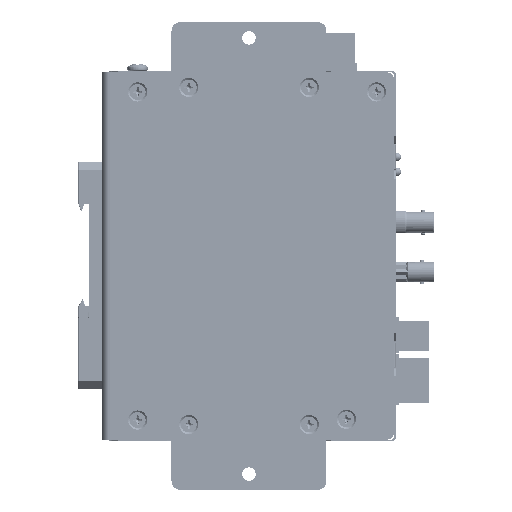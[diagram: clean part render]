
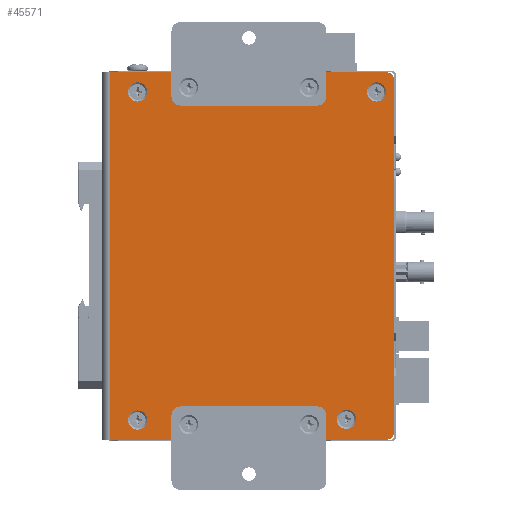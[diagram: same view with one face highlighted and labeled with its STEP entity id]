
A CAD part, left-side view. The second image highlights one B-rep face of the part: STEP entity #45571.
In plain terms, the highlighted planar face has unit normal (-1, 0, 0).
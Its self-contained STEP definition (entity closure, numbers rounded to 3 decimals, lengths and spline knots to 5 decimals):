
#2086=CIRCLE('',#51442,0.00324);
#2087=CIRCLE('',#51443,0.00324);
#2088=CIRCLE('',#51444,0.00324);
#2089=CIRCLE('',#51445,0.00324);
#2090=CIRCLE('',#51446,0.00324);
#2091=CIRCLE('',#51447,0.00324);
#2092=CIRCLE('',#51448,0.00324);
#2093=CIRCLE('',#51449,0.00324);
#2094=CIRCLE('',#51450,0.00254);
#2095=CIRCLE('',#51451,0.00254);
#3966=LINE('',#71765,#8369);
#3970=LINE('',#71774,#8373);
#3976=LINE('',#71788,#8379);
#3978=LINE('',#71810,#8381);
#8369=VECTOR('',#56300,1.);
#8373=VECTOR('',#56306,1.);
#8379=VECTOR('',#56314,1.);
#8381=VECTOR('',#56338,1.);
#13854=ORIENTED_EDGE('',*,*,#26093,.F.);
#13855=ORIENTED_EDGE('',*,*,#26094,.F.);
#13856=ORIENTED_EDGE('',*,*,#26095,.F.);
#13857=ORIENTED_EDGE('',*,*,#26096,.F.);
#13858=ORIENTED_EDGE('',*,*,#26097,.F.);
#13859=ORIENTED_EDGE('',*,*,#26098,.F.);
#13860=ORIENTED_EDGE('',*,*,#26099,.F.);
#13861=ORIENTED_EDGE('',*,*,#26100,.F.);
#13862=ORIENTED_EDGE('',*,*,#26091,.F.);
#13863=ORIENTED_EDGE('',*,*,#26101,.T.);
#13864=ORIENTED_EDGE('',*,*,#26081,.T.);
#13865=ORIENTED_EDGE('',*,*,#26102,.T.);
#13866=ORIENTED_EDGE('',*,*,#26085,.T.);
#13867=ORIENTED_EDGE('',*,*,#26103,.F.);
#26081=EDGE_CURVE('',#32369,#32370,#3966,.T.);
#26085=EDGE_CURVE('',#32373,#32374,#3970,.T.);
#26091=EDGE_CURVE('',#32379,#32380,#3976,.T.);
#26093=EDGE_CURVE('',#32381,#32381,#2086,.T.);
#26094=EDGE_CURVE('',#32382,#32382,#2087,.T.);
#26095=EDGE_CURVE('',#32383,#32383,#2088,.T.);
#26096=EDGE_CURVE('',#32384,#32384,#2089,.T.);
#26097=EDGE_CURVE('',#32385,#32385,#2090,.T.);
#26098=EDGE_CURVE('',#32386,#32386,#2091,.T.);
#26099=EDGE_CURVE('',#32387,#32387,#2092,.T.);
#26100=EDGE_CURVE('',#32388,#32388,#2093,.T.);
#26101=EDGE_CURVE('',#32379,#32369,#2094,.T.);
#26102=EDGE_CURVE('',#32370,#32373,#2095,.T.);
#26103=EDGE_CURVE('',#32380,#32374,#3978,.F.);
#32369=VERTEX_POINT('',#71766);
#32370=VERTEX_POINT('',#71767);
#32373=VERTEX_POINT('',#71775);
#32374=VERTEX_POINT('',#71776);
#32379=VERTEX_POINT('',#71787);
#32380=VERTEX_POINT('',#71789);
#32381=VERTEX_POINT('',#71793);
#32382=VERTEX_POINT('',#71795);
#32383=VERTEX_POINT('',#71797);
#32384=VERTEX_POINT('',#71799);
#32385=VERTEX_POINT('',#71801);
#32386=VERTEX_POINT('',#71803);
#32387=VERTEX_POINT('',#71805);
#32388=VERTEX_POINT('',#71807);
#37039=EDGE_LOOP('',(#13854));
#37040=EDGE_LOOP('',(#13855));
#37041=EDGE_LOOP('',(#13856));
#37042=EDGE_LOOP('',(#13857));
#37043=EDGE_LOOP('',(#13858));
#37044=EDGE_LOOP('',(#13859));
#37045=EDGE_LOOP('',(#13860));
#37046=EDGE_LOOP('',(#13861));
#37047=EDGE_LOOP('',(#13862,#13863,#13864,#13865,#13866,#13867));
#40502=FACE_BOUND('',#37039,.T.);
#40503=FACE_BOUND('',#37040,.T.);
#40504=FACE_BOUND('',#37041,.T.);
#40505=FACE_BOUND('',#37042,.T.);
#40506=FACE_BOUND('',#37043,.T.);
#40507=FACE_BOUND('',#37044,.T.);
#40508=FACE_BOUND('',#37045,.T.);
#40509=FACE_BOUND('',#37046,.T.);
#40510=FACE_BOUND('',#37047,.T.);
#43826=PLANE('',#51441);
#45571=ADVANCED_FACE('',(#40502,#40503,#40504,#40505,#40506,#40507,#40508,
#40509,#40510),#43826,.T.);
#51441=AXIS2_PLACEMENT_3D('',#71791,#56316,#56317);
#51442=AXIS2_PLACEMENT_3D('',#71792,#56318,#56319);
#51443=AXIS2_PLACEMENT_3D('',#71794,#56320,#56321);
#51444=AXIS2_PLACEMENT_3D('',#71796,#56322,#56323);
#51445=AXIS2_PLACEMENT_3D('',#71798,#56324,#56325);
#51446=AXIS2_PLACEMENT_3D('',#71800,#56326,#56327);
#51447=AXIS2_PLACEMENT_3D('',#71802,#56328,#56329);
#51448=AXIS2_PLACEMENT_3D('',#71804,#56330,#56331);
#51449=AXIS2_PLACEMENT_3D('',#71806,#56332,#56333);
#51450=AXIS2_PLACEMENT_3D('',#71808,#56334,#56335);
#51451=AXIS2_PLACEMENT_3D('',#71809,#56336,#56337);
#56300=DIRECTION('',(0.,0.,1.));
#56306=DIRECTION('',(0.,1.,0.));
#56314=DIRECTION('',(0.,1.,0.));
#56316=DIRECTION('',(-1.,0.,0.));
#56317=DIRECTION('',(0.,0.,1.));
#56318=DIRECTION('',(-1.,0.,0.));
#56319=DIRECTION('',(0.,0.,1.));
#56320=DIRECTION('',(-1.,0.,0.));
#56321=DIRECTION('',(0.,0.,1.));
#56322=DIRECTION('',(-1.,0.,0.));
#56323=DIRECTION('',(0.,0.,1.));
#56324=DIRECTION('',(-1.,0.,0.));
#56325=DIRECTION('',(0.,0.,1.));
#56326=DIRECTION('',(-1.,0.,0.));
#56327=DIRECTION('',(0.,0.,1.));
#56328=DIRECTION('',(-1.,0.,0.));
#56329=DIRECTION('',(0.,0.,1.));
#56330=DIRECTION('',(-1.,0.,0.));
#56331=DIRECTION('',(0.,0.,1.));
#56332=DIRECTION('',(-1.,0.,0.));
#56333=DIRECTION('',(0.,0.,1.));
#56334=DIRECTION('',(-1.,0.,0.));
#56335=DIRECTION('',(0.,0.,1.));
#56336=DIRECTION('',(-1.,0.,0.));
#56337=DIRECTION('',(0.,0.,1.));
#56338=DIRECTION('',(0.,0.,-1.));
#71765=CARTESIAN_POINT('',(-0.01524,-0.09703,0.));
#71766=CARTESIAN_POINT('',(-0.01524,-0.09703,-0.05944));
#71767=CARTESIAN_POINT('',(-0.01524,-0.09703,0.05944));
#71774=CARTESIAN_POINT('',(-0.01524,-0.09703,0.06198));
#71775=CARTESIAN_POINT('',(-0.01524,-0.09449,0.06198));
#71776=CARTESIAN_POINT('',(-0.01524,-0.00102,0.06198));
#71787=CARTESIAN_POINT('',(-0.01524,-0.09449,-0.06198));
#71788=CARTESIAN_POINT('',(-0.01524,-0.09703,-0.06198));
#71789=CARTESIAN_POINT('',(-0.01524,-0.00102,-0.06198));
#71791=CARTESIAN_POINT('',(-0.01524,-0.09703,0.));
#71792=CARTESIAN_POINT('',(-0.01524,-0.02769,0.0569));
#71793=CARTESIAN_POINT('',(-0.01524,-0.02769,0.06013));
#71794=CARTESIAN_POINT('',(-0.01524,-0.06833,0.0569));
#71795=CARTESIAN_POINT('',(-0.01524,-0.06833,0.06013));
#71796=CARTESIAN_POINT('',(-0.01524,-0.09106,0.05537));
#71797=CARTESIAN_POINT('',(-0.01524,-0.09106,0.05861));
#71798=CARTESIAN_POINT('',(-0.01524,-0.0809,-0.05512));
#71799=CARTESIAN_POINT('',(-0.01524,-0.0809,-0.05188));
#71800=CARTESIAN_POINT('',(-0.01524,-0.06833,-0.0569));
#71801=CARTESIAN_POINT('',(-0.01524,-0.06833,-0.05366));
#71802=CARTESIAN_POINT('',(-0.01524,-0.02769,-0.0569));
#71803=CARTESIAN_POINT('',(-0.01524,-0.02769,-0.05366));
#71804=CARTESIAN_POINT('',(-0.01524,-0.01041,-0.05537));
#71805=CARTESIAN_POINT('',(-0.01524,-0.01041,-0.05213));
#71806=CARTESIAN_POINT('',(-0.01524,-0.01041,0.05537));
#71807=CARTESIAN_POINT('',(-0.01524,-0.01041,0.05861));
#71808=CARTESIAN_POINT('',(-0.01524,-0.09449,-0.05944));
#71809=CARTESIAN_POINT('',(-0.01524,-0.09449,0.05944));
#71810=CARTESIAN_POINT('',(-0.01524,-0.00102,0.));
